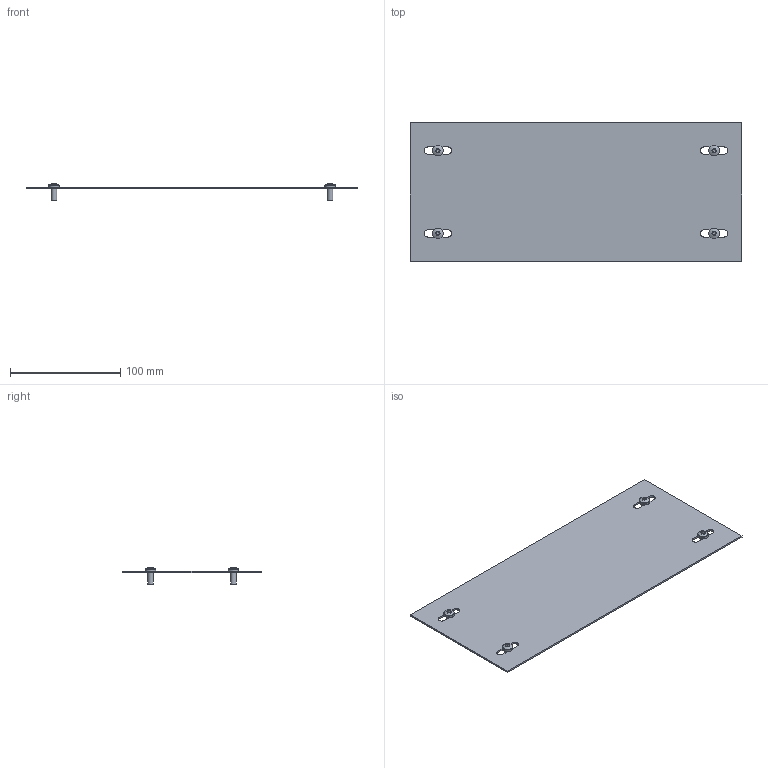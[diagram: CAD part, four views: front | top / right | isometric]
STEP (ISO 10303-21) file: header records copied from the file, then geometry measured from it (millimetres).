
FILE_DESCRIPTION(('Open CASCADE Model'),'2;1');
FILE_NAME('Open CASCADE Shape Model','2025-03-28T17:53:16',('Author'),( 'Open CASCADE'),'Open CASCADE STEP processor 7.8','Open CASCADE 7.8' ,'Unknown');
FILE_SCHEMA(('AUTOMOTIVE_DESIGN { 1 0 10303 214 1 1 1 1 }'));
Length unit declared in the file: millimetre
Products named in the file (3): Compound1; Solid1; Solid2
Assembly tree (5 placements, depth 2):
  Compound1
    Solid1
    Solid2  x4
Bounding box: 300 x 125 x 15.56 mm (x, y, z)
Volume: 57025.7 mm3; surface area: 77092.5 mm2
Topology: 5 solids, 5 shells, 86 faces, 180 edges, 108 vertices
Faces by surface type: plane 46, cylinder 16, torus 8, cone 8, sphere 4, bspline 4
Full cylindrical faces by diameter (mm): 5 x4, 9.5 x4
Entity records: 1508 total; most frequent: CARTESIAN_POINT 562, DIRECTION 190, ORIENTED_EDGE 178, EDGE_CURVE 89, AXIS2_PLACEMENT_3D 73, VERTEX_POINT 57, FACE_BOUND 48, EDGE_LOOP 48
